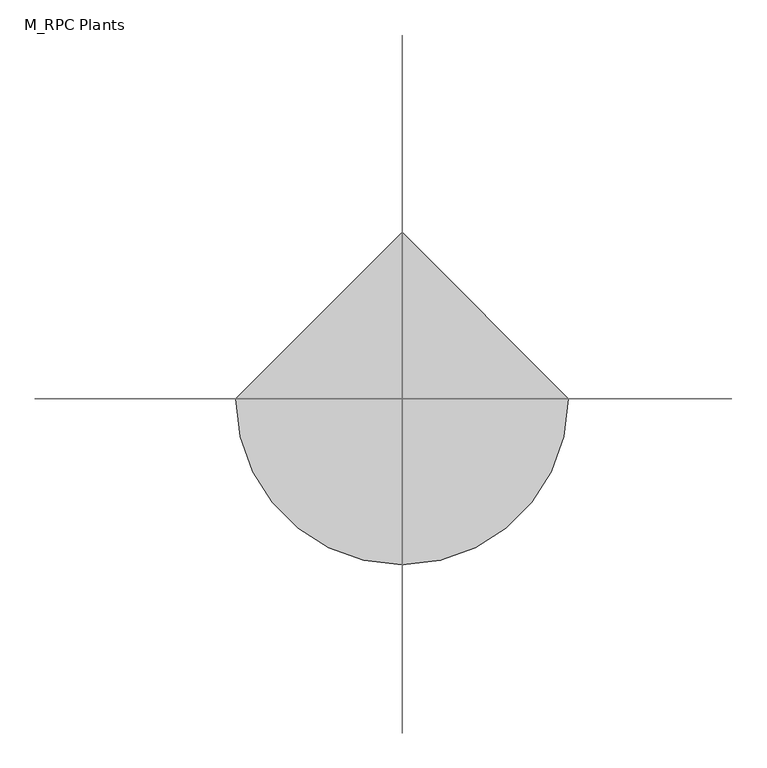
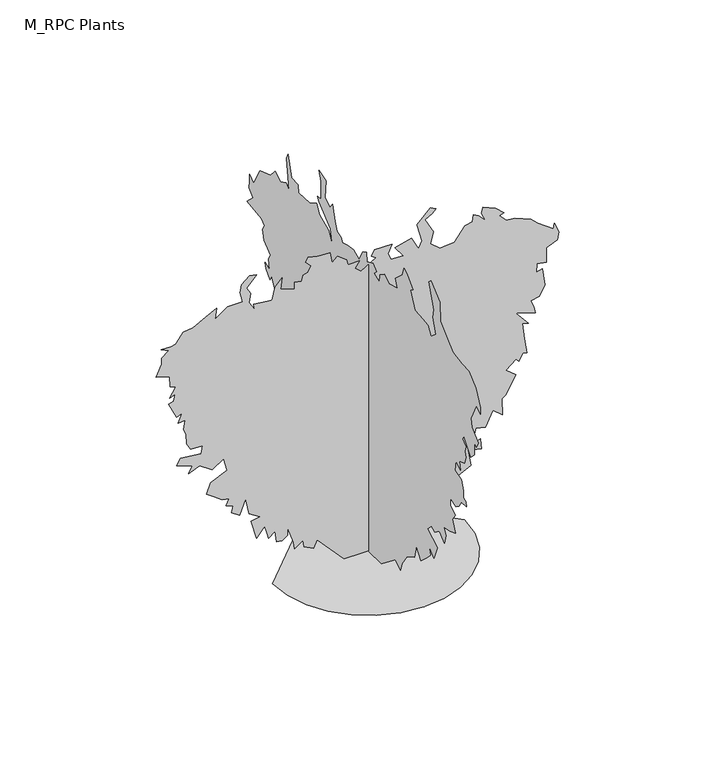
"""IFC4 building model written with IfcOpenShell, lengths in millimetres: proxy geometry, M_RPC Plants : Meadowlark."""

from ifc_helpers import new_model, si_unit, origin, place, context, project, spatial, triangles, source, transform, mapped, element, save


def m_rpc_plants_9ef344a8(model_context):
    return source(origin(), model_context, "Body", "Tessellation", [
        triangles([(-63.9369313, 2.6e-06, 2.5813025), (-98.6351404, 1.9e-06, 41.3616468), (-133.3335948, 1.1e-06, 80.1421467), (-143.538813, 2.7e-06, 59.7314513), (-168.0315495, 3.1e-06, 71.9778149), (-170.0726858, 2.1e-06, 90.347365), (-192.5245312, 3.9e-06, 76.0598514), (-194.5656857, 2.9e-06, 94.4296558), (-210.8940858, 9e-07, 139.3333375), (-210.8940858, 2.1e-06, 118.9223832), (-225.1818402, 3.4e-06, 108.7171649), (-239.469104, 3.9e-06, 110.7583103), (-243.5513948, 2.2e-06, 141.3742286), (-260.2917792, 3.7e-06, 128.4682213), (-264.2033864, 3e-06, 143.1357217), (-270.0860397, 2e-06, 163.8260649), (-290.4949502, 4.4e-06, 139.3333375), (-304.7824684, 2e-06, 190.3599468), (-282.331386, 8e-07, 194.4422376), (-310.9064223, 9e-07, 212.8117922), (-319.0699865, -1.4e-06, 257.7162279), (-335.3996584, 1.7e-06, 216.894083), (-355.8110942, 1.8e-06, 231.181583), (-351.7293303, 5e-07, 249.5511376), (-370.0986305, 9e-07, 255.674056), (-361.9325229, -4e-07, 272.003746), (-380.3043303, 2e-07, 276.0855281), (-401.9400736, 2e-07, 291.703997), (-421.1247311, 3e-07, 304.6605463), (-410.918995, -1.9e-06, 333.2355826), (-368.1987102, -4.9e-06, 351.9401459), (-376.2200229, -6.6e-06, 386.3038187), (-406.8371947, -4.1e-06, 367.9345184), (-439.493995, -4.1e-06, 390.385619), (-468.0690313, -2.1e-06, 378.137711), (-457.8632953, -3.5e-06, 394.4673829), (-498.6862032, -2.7e-06, 410.7970548), (-488.4805035, -4.1e-06, 427.1242195), (-435.4122311, -6.1e-06, 421.0002474), (-431.3304308, -7.5e-06, 441.4117195), (-461.9450955, -6.2e-06, 443.4538914), (-472.1508316, -6.9e-06, 461.8231553), (-474.1929671, -8.4e-06, 488.3560198), (-480.3169393, -9e-06, 502.6435561), (-476.2325955, -1.06e-05, 527.1367922), (-495.4832737, -9.7e-06, 526.35192), (-484.3987032, -1.16e-05, 549.5878564), (-498.6862032, -1.06e-05, 543.466464), (-519.0951319, -1.23e-05, 586.3290004), (-506.8497674, -1.3e-05, 590.4107643), (-502.7680035, -1.43e-05, 608.7800646), (-517.0555035, -1.33e-05, 602.6561288), (-500.7258316, -1.55e-05, 627.1493649), (-516.1995237, -1.52e-05, 634.2689884), (-517.0555035, -1.68e-05, 661.848337), (-551.7544756, -1.59e-05, 672.0540367), (-537.4644321, -1.84e-05, 702.6687378), (-538.1857907, -1.94e-05, 720.3319038), (-519.0951319, -2.1e-05, 733.2859097), (-539.506604, -2.07e-05, 743.4916094), (-512.7375257, -2.18e-05, 742.0895147), (-500.7258316, -2.25e-05, 745.5312378), (-482.3565313, -2.49e-05, 772.0666094), (-455.8236669, -2.62e-05, 774.1062378), (-423.1668666, -2.87e-05, 792.4755381), (-395.1176339, -3.08e-05, 806.3871162), (-398.6736305, -2.9e-05, 778.1880381), (-366.0168303, -3.17e-05, 800.6416821), (-327.2360942, -3.34e-05, 800.6416821), (-334.4166515, -3.47e-05, 827.9339842), (-330.1088113, -3.62e-05, 849.0616917), (-308.8667939, -3.81e-05, 865.9552826), (-290.4949502, -3.87e-05, 861.8734823), (-317.5358142, -3.58e-05, 834.0731443), (-306.8246221, -3.53e-05, 816.9688105), (-310.9064223, -3.36e-05, 792.4755381), (-296.6189042, -3.29e-05, 770.0245102), (-298.6610579, -3.37e-05, 784.3120102), (-251.0357672, -3.54e-05, 778.383593), (-243.5513948, -3.77e-05, 810.8473818), (-225.1818402, -3.97e-05, 831.2563105), (-228.2958943, -3.78e-05, 801.312208), (-192.5245312, -3.86e-05, 788.3937378), (-192.5245312, -3.97e-05, 806.7630381), (-173.5245645, -4.03e-05, 803.1613684), (-170.0726858, -4.14e-05, 819.0109823), (-157.8260678, -4.22e-05, 823.0927099), (-149.662004, -4.34e-05, 837.3802826), (-163.9495131, -4.36e-05, 851.6677826), (-157.8260678, -4.46e-05, 863.9131107), (-131.292195, -4.54e-05, 857.7916821), (-100.6760314, -4.66e-05, 855.7495102), (-94.5528496, -4.52e-05, 827.1745102), (-80.2653314, -4.65e-05, 839.4223818), (-56.9158573, -4.65e-05, 821.1673914), (-53.7314587, -4.57e-05, 806.7630381), (-23.1153655, -4.71e-05, 806.7630381), (-35.3616542, -4.56e-05, 790.4359097), (-19.0331746, -4.54e-05, 776.1484097), (19.7470164, -4.86e-05, 800.6416821), (7.5007532, -4.85e-05, 808.8052099), (15.1231208, -4.98e-05, 823.890263), (60.5683824, -5.17e-05, 823.0927099), (50.5958261, -4.99e-05, 799.816151), (58.5274868, -4.92e-05, 782.2723818), (91.1845505, -5.05e-05, 780.2302099), (68.732964, -5.13e-05, 810.8473818), (111.5952414, -5.38e-05, 821.0506107), (129.9650504, -5.25e-05, 786.3541821), (138.9452253, -5.4e-05, 804.6625122), (125.8830048, -5.64e-05, 853.7099545), (160.581223, -6e-05, 888.4063831), (174.868723, -6.01e-05, 880.2427826), (164.6635138, -5.91e-05, 870.0370829), (146.2937048, -5.76e-05, 859.8313105), (168.7455503, -5.62e-05, 819.0109823), (161.0930195, -5.4e-05, 788.6985884), (185.0742047, -5.39e-05, 767.9848818), (203.4434868, -5.48e-05, 770.0245102), (223.8544503, -5.58e-05, 772.0666094), (250.3885683, -5.9e-05, 806.7630381), (269.7101179, -6.01e-05, 811.2766434), (272.8393963, -6.13e-05, 829.2166821), (285.0872861, -6.15e-05, 823.0927099), (304.0839645, -6.12e-05, 803.1613684), (293.2508503, -6.21e-05, 827.1745102), (297.3326324, -6.31e-05, 841.4620102), (329.9894508, -6.37e-05, 827.1745102), (351.394031, -6.35e-05, 807.9441433), (340.0529354, -6.27e-05, 803.4457987), (358.5644508, -6.24e-05, 784.3120102), (381.0180948, -6.33e-05, 782.2723818), (422.1051581, -6.41e-05, 765.7470823), (440.2077596, -6.38e-05, 747.5734097), (481.0306675, -6.39e-05, 718.9984097), (483.0702959, -6.48e-05, 733.2859097), (495.3181675, -6.36e-05, 704.710837), (491.2364036, -6.23e-05, 684.2994375), (462.6588238, -6.03e-05, 672.0540367), (462.6588238, -5.8e-05, 633.273337), (438.1681312, -5.71e-05, 637.3550646), (436.1259593, -5.57e-05, 614.9040367), (452.4556312, -5.67e-05, 618.9857643), (458.5770598, -5.41e-05, 572.041464), (444.2895235, -5.19e-05, 545.5060925), (421.8384593, -5.07e-05, 541.4242922), (430.0020235, -4.98e-05, 521.0128201), (434.0863309, -4.91e-05, 504.6856916), (383.0577232, -4.78e-05, 521.0128201), (415.7145235, -4.69e-05, 482.2346274), (399.3873951, -4.64e-05, 486.3163914), (405.5087874, -4.42e-05, 443.4538914), (411.6327232, -4.2e-05, 402.6309471), (401.4269872, -4.17e-05, 404.673119), (391.2212874, -4.01e-05, 386.3038187), (383.0577232, -4.03e-05, 394.4673829), (356.5248588, -3.79e-05, 374.0559471), (383.0577232, -3.77e-05, 351.6048466), (356.5248588, -3.39e-05, 306.7001747), (346.3191227, -3.29e-05, 298.5365923), (348.3587511, -3.03e-05, 253.6334284), (323.4463909, -3.05e-05, 274.9933165), (303.4565864, -2.73e-05, 235.2636194), (278.9633503, -2.66e-05, 241.3868104), (266.8272088, -2.35e-05, 199.2829668), (291.2086966, -2.52e-05, 208.7297557), (293.2508503, -2.36e-05, 180.1547194), (258.5518782, -2.25e-05, 188.3190466), (266.7179858, -2.02e-05, 143.415374), (232.0187775, -1.77e-05, 127.0867195), (215.6903774, -1.54e-05, 100.5528377), (197.3205684, -1.5e-05, 106.6760195), (191.1973775, -1.2e-05, 61.7723423), (176.9098775, -1.3e-05, 88.306474), (150.3759956, -8.8e-06, 37.2796104), (132.0059414, -8.8e-06, 51.5671195), (68.732964, -3.2e-06, 2.5813025), (5e-07, 58.5086925, 0.0), (5.6e-06, 119.7410287, 55.1089), (6.1e-06, 137.5863239, 49.658565), (5.6e-06, 170.7679014, 104.0948725), (5.5e-06, 180.9731106, 91.8482545), (9.8e-06, 197.3017651, 73.4787044), (6.8e-06, 213.6304195, 87.7662181), (6.7e-06, 205.4660923, 93.8893999), (9.7e-06, 223.8356469, 144.9162635), (8.6e-06, 231.9999742, 112.2589454), (1e-05, 238.1231651, 136.7519272), (1.13e-05, 276.9033925, 128.5875999), (1.12e-05, 254.4523283, 148.9982999), (1.22e-05, 274.8637822, 151.0394453), (1.45e-05, 307.5205825, 171.4501453), (1.42e-05, 280.9851927, 191.8608363), (1.68e-05, 299.3544748, 232.6824725), (1.68e-05, 317.7263186, 214.3126635), (1.89e-05, 350.3043809, 228.0708535), (1.99e-05, 340.1773828, 261.2569819), (2.07e-05, 354.4649191, 265.338764), (2.22e-05, 356.5045112, 297.9955825), (2.36e-05, 393.2456552, 293.9138004), (2.61e-05, 411.6149554, 332.6945546), (2.58e-05, 397.3274554, 338.8184904), (2.92e-05, 438.1478199, 377.5992265), (2.82e-05, 405.4910196, 385.7627907), (2.9e-05, 411.6149554, 398.0081552), (2.55e-05, 417.7363478, 412.2956552), (2.48e-05, 395.2852836, 418.4196273), (2.73e-05, 415.6967194, 455.1581915), (2.98e-05, 436.1081915, 491.8993355), (2.95e-05, 444.2717557, 477.6118355), (3.11e-05, 460.5988841, 498.0207278), (3.2e-05, 466.7228199, 512.3082642), (3.07e-05, 446.3113841, 504.1447), (3.21e-05, 450.3956915, 530.6800715), (3.24e-05, 440.1899554, 547.0072), (3.47e-05, 470.8046202, 569.4583005), (3.61e-05, 476.928556, 595.9937084), (3.64e-05, 468.7649918, 610.2812084), (3.74e-05, 481.0103562, 622.5265366), (4.07e-05, 546.3265002, 630.6926805), (4.07e-05, 519.7910923, 657.2255087), (4.22e-05, 538.1603926, 673.5551805), (4.29e-05, 536.5677936, 692.1911797), (4.37e-05, 535.3943187, 712.0133709), (4.23e-05, 517.7489204, 698.0459095), (3.89e-05, 487.134292, 751.1141819), (3.76e-05, 440.1899554, 767.4438538), (3.77e-05, 419.7785196, 789.8948816), (3.6e-05, 395.2852836, 775.6073816), (3.55e-05, 370.7920475, 787.8553259), (3.44e-05, 358.546683, 775.6073816), (3.84e-05, 368.7524191, 857.250654), (3.88e-05, 362.6284833, 871.5382267), (3.56e-05, 346.2988114, 816.4303259), (3.43e-05, 317.7237751, 814.388154), (3.33e-05, 315.6841467, 793.9766819), (3.12e-05, 262.6158925, 798.0584822), (3.06e-05, 234.0411286, 814.388154), (2.9e-05, 219.7536105, 791.9370535), (2.65e-05, 180.9731106, 773.5677532), (2.43e-05, 162.603556, 740.9084095), (2.65e-05, 170.7679014, 783.7709822), (3.06e-05, 223.8356469, 824.5938538), (3.15e-05, 229.9590922, 836.8392546), (3.08e-05, 213.6301652, 838.8814264), (3.3e-05, 213.6301652, 887.8678986), (3.45e-05, 223.8356469, 912.3585548), (3.26e-05, 191.1785923, 902.1553986), (3.06e-05, 195.2606287, 853.1689264), (2.91e-05, 172.8087833, 840.9209822), (2.93e-05, 162.603556, 855.2085548), (2.71e-05, 150.356947, 816.4303259), (2.57e-05, 142.1926198, 793.9766819), (2.47e-05, 123.8230652, 787.8553259), (2.4e-05, 117.7001377, 777.6495535), (2.32e-05, 95.248047, 783.7709822), (2.23e-05, 68.7141651, 787.8553259), (2.06e-05, 43.1368564, 776.3617687), (2.13e-05, 25.8518877, 808.2641819), (2.09e-05, 9.5229755, 816.4303259), (1.98e-05, 7.4819061, 791.9370535), (1.91e-05, -19.0520211, 804.1824543), (1.78e-05, -35.3804508, 789.8948816), (1.78e-05, -25.1750781, 779.6891819), (1.63e-05, -49.6682165, 769.4834822), (1.72e-05, -51.7091075, 791.9370535), (1.69e-05, -72.1200574, 806.2245535), (1.54e-05, -92.5307528, 791.9370535), (1.42e-05, -129.2700982, 802.1428259), (1.56e-05, -121.105771, 824.5938538), (1.54e-05, -153.0015985, 852.691412), (1.61e-05, -159.8860075, 875.6199543), (1.52e-05, -172.1326437, 867.4564264), (1.28e-05, -200.7076618, 840.9209822), (1.3e-05, -188.4607894, 832.7574543), (1.02e-05, -208.8717347, 789.8948816), (8.5e-06, -245.6110801, 787.8553259), (7.4e-06, -268.0641973, 783.7709822), (5.8e-06, -280.3095436, 761.3198816), (5.7e-06, -303.1314609, 780.7331589), (8e-06, -290.5152796, 820.5121262), (8.8e-06, -294.5970617, 842.963154), (1.25e-05, -272.1459794, 906.2371988), (1.25e-05, -280.3095436, 914.4007267), (9.2e-06, -321.1299262, 879.7017546), (6.9e-06, -323.1720617, 828.675654), (4.3e-06, -354.6452497, 799.5291046), (2.2e-06, -380.3221344, 777.6495535), (1e-07, -421.1424989, 771.5255814), (-1.3e-06, -451.7596707, 769.4834822), (-3.9e-06, -482.3768789, 740.9084095), (-6.6e-06, -502.7857713, 700.0880814), (-7.4e-06, -502.7857713, 681.7187811), (-6e-06, -486.4586429, 696.0062811), (-2.7e-06, -459.9232349, 644.9801805), (-3.9e-06, -466.0472071, 624.5687084), (-6.3e-06, -494.6222071, 598.0333005), (-6.6e-06, -486.4586429, 581.7061721), (-5.9e-06, -476.2529068, 587.8301442), (-7.3e-06, -476.2529068, 555.1708005), (-7.3e-06, -459.9232349, 538.8436357), (-4.3e-06, -429.3086065, 577.6244081), (-4.5e-06, -423.1846707, 567.4186721), (-5.7e-06, -439.5143426, 555.1708005), (-6.2e-06, -433.3903705, 538.8436357), (-7.1e-06, -439.5143426, 524.5561357), (-7.6e-06, -431.3482349, 504.1447), (-7e-06, -408.8971344, 495.9810994), (-8.2e-06, -412.9789347, 473.5300352), (-6.6e-06, -392.5674625, 487.8175352), (-7.7e-06, -388.4856986, 459.2425352), (-9.4e-06, -419.1028705, 451.0764276), (-1.08e-05, -427.2664347, 426.5831915), (-1.17e-05, -428.2418112, 408.450105), (-1.23e-05, -437.4721707, 402.0924989), (-1.3e-05, -441.553971, 391.8867628), (-1.21e-05, -419.1028705, 389.844591), (-1.23e-05, -406.8549989, 371.4752907), (-1.22e-05, -394.6096344, 363.3117265), (-1.07e-05, -368.0767699, 369.4331188), (-7.3e-06, -368.0767699, 349.0242265), (-8.8e-06, -390.5278705, 336.7763186), (-9e-06, -378.2799625, 318.4070183), (-1.09e-05, -390.5278705, 287.7923899), (-1.03e-05, -366.0345981, 277.5866538), (-9.3e-06, -339.5017336, 273.5048717), (-1.05e-05, -347.6653341, 255.1330462), (-1.13e-05, -341.541362, 230.6413362), (-9.5e-06, -319.0902978, 249.0108726), (-9.2e-06, -298.6788438, 234.7233726), (-8.2e-06, -284.3913257, 242.8876998), (-8.2e-06, -266.0220254, 224.5181452), (-1.13e-05, -310.9241901, 200.0251635), (-1.22e-05, -294.5970617, 161.2446636), (-1.04e-05, -272.1459794, 181.6556089), (-1.16e-05, -278.2673899, 159.2037635), (-1.17e-05, -263.9798717, 142.8751181), (-1.15e-05, -235.4058709, 118.3821273), (-9.5e-06, -214.9951618, 144.9162635), (-1.06e-05, -205.8577653, 109.83274), (-1e-05, -174.1735256, 91.8482545), (-1.05e-05, -149.6807982, 57.1500454), (-6.7e-06, -143.5573621, 36.7393522), (-5.1e-06, -121.105771, 51.0268636), (-4.5e-06, -57.8322894, 2.0410923), (-249.8274834, 0.0, 0.0911396), (-243.2227266, -57.2440259, 0.0911358), (-224.4129918, -109.8131736, 0.091132), (-194.9037465, -156.2020027, 0.0911279), (-156.2020027, -194.9037465, 0.0911238), (-109.8131736, -224.4127374, 0.09112), (-57.2437715, -243.2227266, 0.0911167), (8.9e-06, -249.8274834, 0.0911137), (57.2440259, -243.2227266, 0.0911116), (109.8131736, -224.4127374, 0.0911454), (156.2020027, -194.9037465, 0.0911452), (194.9040008, -156.2020027, 0.0911459), (224.4127374, -109.8131736, 0.0911122), (243.2227266, -57.2437715, 0.0911147), (249.8274834, 2.18e-05, 0.0911177), (-3.49e-05, 249.8274834, 0.0911434)], [[59, 60, 61], [135, 136, 137], [51, 52, 53], [34, 35, 36], [149, 150, 151], [80, 81, 82], [172, 173, 174], [160, 161, 162], [96, 97, 98], [16, 17, 18], [16, 18, 19], [65, 66, 67], [147, 148, 149], [72, 73, 74], [71, 72, 74], [70, 71, 74], [45, 46, 47], [128, 129, 130], [6, 7, 8], [106, 107, 108], [106, 108, 109], [13, 14, 15], [102, 103, 104], [146, 147, 149], [152, 153, 154], [79, 80, 82], [166, 167, 168], [165, 166, 168], [122, 123, 124], [154, 155, 156], [112, 113, 114], [111, 112, 114], [111, 114, 115], [77, 78, 79], [21, 22, 23], [21, 23, 24], [83, 84, 85], [174, 175, 176], [36, 37, 38], [36, 38, 39], [34, 36, 39], [139, 140, 141], [55, 56, 57], [24, 25, 26], [126, 127, 128], [125, 126, 128], [125, 128, 130], [101, 102, 104], [100, 101, 104], [48, 49, 50], [47, 48, 50], [142, 143, 144], [3, 4, 5], [3, 5, 6], [110, 111, 115], [110, 115, 116], [110, 116, 117], [109, 110, 117], [69, 70, 74], [69, 74, 75], [69, 75, 76], [122, 124, 125], [157, 158, 159], [21, 24, 26], [93, 94, 95], [162, 163, 164], [170, 171, 172], [89, 90, 91], [88, 89, 91], [28, 29, 30], [28, 30, 31], [27, 28, 31], [26, 27, 31], [168, 169, 170], [11, 12, 13], [10, 11, 13], [9, 10, 13], [91, 92, 93], [88, 91, 93], [87, 88, 93], [13, 15, 16], [93, 95, 96], [21, 26, 31], [32, 33, 34], [32, 34, 39], [32, 39, 40], [79, 82, 83], [100, 104, 105], [53, 54, 55], [6, 8, 9], [64, 65, 67], [85, 86, 87], [57, 58, 59], [99, 100, 105], [55, 57, 59], [40, 41, 42], [40, 42, 43], [135, 137, 138], [135, 138, 139], [134, 135, 139], [142, 144, 145], [142, 145, 146], [152, 154, 156], [134, 139, 141], [157, 159, 160], [142, 146, 149], [62, 63, 64], [177, 1, 2], [176, 177, 2], [176, 2, 3], [85, 87, 93], [19, 20, 21], [125, 130, 131], [133, 134, 141], [132, 133, 141], [131, 132, 141], [174, 176, 3], [109, 117, 118], [85, 93, 96], [85, 96, 98], [83, 85, 98], [125, 131, 141], [125, 141, 142], [125, 142, 149], [122, 125, 149], [121, 122, 149], [120, 121, 149], [119, 120, 149], [118, 119, 149], [83, 98, 99], [47, 50, 51], [172, 174, 3], [59, 61, 62], [55, 59, 62], [55, 62, 64], [55, 64, 67], [53, 55, 67], [9, 13, 16], [9, 16, 19], [157, 160, 162], [168, 170, 172], [168, 172, 3], [165, 168, 3], [164, 165, 3], [164, 3, 6], [164, 6, 9], [164, 9, 19], [164, 19, 21], [164, 21, 31], [164, 31, 32], [162, 164, 32], [157, 162, 32], [157, 32, 40], [157, 40, 43], [157, 43, 44], [157, 44, 45], [157, 45, 47], [157, 47, 51], [157, 51, 53], [157, 53, 67], [157, 67, 68], [156, 157, 68], [152, 156, 68], [109, 118, 149], [106, 109, 149], [105, 106, 149], [99, 105, 149], [99, 149, 151], [99, 151, 152], [83, 99, 152], [79, 83, 152], [77, 79, 152], [77, 152, 68], [77, 68, 69], [76, 77, 69], [186, 187, 188], [188, 189, 190], [232, 233, 234], [231, 232, 234], [308, 309, 310], [211, 212, 213], [292, 293, 294], [246, 247, 248], [219, 220, 221], [246, 248, 249], [245, 246, 249], [250, 251, 252], [223, 224, 225], [202, 203, 204], [327, 328, 329], [259, 260, 261], [209, 210, 211], [209, 211, 213], [191, 192, 193], [243, 244, 245], [333, 334, 335], [332, 333, 335], [271, 272, 273], [315, 316, 317], [314, 315, 317], [342, 343, 344], [273, 274, 275], [258, 259, 261], [291, 292, 294], [271, 273, 275], [183, 184, 185], [182, 183, 185], [326, 327, 329], [205, 206, 207], [300, 301, 302], [299, 300, 302], [321, 322, 323], [297, 298, 299], [296, 297, 299], [262, 263, 264], [261, 262, 264], [296, 299, 302], [337, 338, 339], [200, 201, 202], [199, 200, 202], [323, 324, 325], [242, 243, 245], [242, 245, 249], [242, 249, 250], [242, 250, 252], [242, 252, 253], [237, 238, 239], [283, 284, 285], [282, 283, 285], [282, 285, 286], [281, 282, 286], [280, 281, 286], [280, 286, 287], [195, 196, 197], [194, 195, 197], [241, 242, 253], [241, 253, 254], [241, 254, 255], [234, 235, 236], [231, 234, 236], [227, 228, 229], [190, 191, 193], [179, 180, 181], [303, 304, 305], [229, 230, 231], [270, 271, 275], [269, 270, 275], [269, 275, 276], [197, 198, 199], [266, 267, 268], [265, 266, 268], [222, 223, 225], [221, 222, 225], [186, 188, 190], [182, 185, 186], [181, 182, 186], [204, 205, 207], [329, 330, 331], [323, 325, 326], [280, 287, 288], [321, 323, 326], [311, 312, 313], [335, 336, 337], [335, 337, 339], [332, 335, 339], [295, 296, 302], [277, 278, 279], [219, 221, 225], [219, 225, 226], [219, 226, 227], [219, 227, 229], [218, 219, 229], [218, 229, 231], [186, 190, 193], [306, 307, 308], [305, 306, 308], [303, 305, 308], [303, 308, 310], [311, 313, 314], [311, 314, 317], [311, 317, 318], [311, 318, 319], [311, 319, 320], [339, 340, 341], [258, 261, 264], [345, 178, 179], [344, 345, 179], [344, 179, 181], [216, 217, 218], [215, 216, 218], [215, 218, 231], [215, 231, 236], [215, 236, 237], [215, 237, 239], [215, 239, 240], [215, 240, 241], [341, 342, 344], [341, 344, 181], [339, 341, 181], [332, 339, 181], [332, 181, 186], [332, 186, 193], [332, 193, 194], [331, 332, 194], [279, 280, 288], [290, 291, 294], [289, 290, 294], [289, 294, 295], [288, 289, 295], [279, 288, 295], [279, 295, 302], [279, 302, 303], [279, 303, 310], [213, 214, 215], [209, 213, 215], [209, 215, 241], [208, 209, 241], [207, 208, 241], [326, 329, 331], [321, 326, 331], [321, 331, 194], [320, 321, 194], [311, 320, 194], [310, 311, 194], [279, 310, 194], [277, 279, 194], [276, 277, 194], [269, 276, 194], [268, 269, 194], [265, 268, 194], [264, 265, 194], [258, 264, 194], [258, 194, 197], [258, 197, 199], [258, 199, 202], [258, 202, 204], [258, 204, 207], [258, 207, 241], [258, 241, 255], [258, 255, 256], [257, 258, 256], [360, 361, 346], [359, 360, 346], [359, 346, 347], [358, 359, 347], [358, 347, 348], [358, 348, 349], [357, 358, 349], [356, 357, 349], [356, 349, 350], [356, 350, 351], [356, 351, 352], [356, 352, 353], [356, 353, 354], [356, 354, 355]], closed=False),
    ])


if __name__ == "__main__":
    model = new_model("IFC4")
    model_context = context("Model", 3, world=origin())
    ifc_project = project(units=[si_unit("LENGTHUNIT", "METRE", prefix="MILLI")], contexts=[model_context])
    site = spatial("IfcSite", under=ifc_project)
    building = spatial("IfcBuilding", under=site)
    placement = place(None, origin())
    m_rpc_plants_shape = m_rpc_plants_9ef344a8(model_context)
    element("IfcBuildingElementProxy", 1, Name="M_RPC Plants : Meadowlark", ObjectType="M_RPC Plants : Meadowlark", at=placement, inside=building, context=model_context, shape_type="MappedRepresentation", body=[
        mapped(m_rpc_plants_shape, transform((0.0, 0.0, 0.0), x_axis=(1.0, 0.0, 0.0), y_axis=(0.0, 1.0, 0.0), z_axis=(0.0, 0.0, 1.0))),
    ])
    save(model, "model.ifc")
